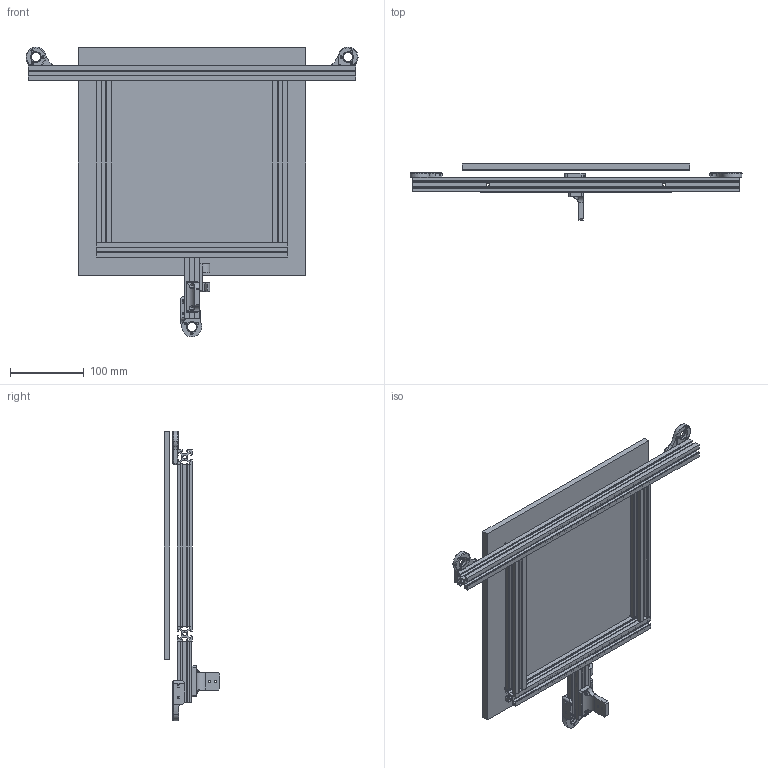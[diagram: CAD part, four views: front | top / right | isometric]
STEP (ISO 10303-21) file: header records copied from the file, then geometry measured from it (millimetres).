
FILE_DESCRIPTION (( 'STEP AP214' ), '1' );
FILE_NAME ('ass_b2v_piano_stampa.STEP', '2024-01-16T13:08:57', ( '' ), ( '' ), 'SwSTEP 2.0', 'SolidWorks 2022', '' );
FILE_SCHEMA (( 'AUTOMOTIVE_DESIGN' ));
Length unit declared in the file: millimetre
Products named in the file (11): b2v_ferma_cavi; b2v_profilo_20x20_260; b2v_attacco_piatto_z_sx; b2v_profilo_20x20_445; b2v_profilo_20x20_220; ass_b2v_piano_stampa; b2v_profilo_20x20_83; b2v_attacco_piatto_z_cx; b2v_fissaggio_catena_piatto; b2v_piatto_310x310_cr10; b2v_attacco_piatto_z_dx
Assembly tree (11 placements, depth 2):
  ass_b2v_piano_stampa
    b2v_profilo_20x20_445
    b2v_profilo_20x20_220  x2
    b2v_profilo_20x20_260
    b2v_profilo_20x20_83
    b2v_piatto_310x310_cr10
    b2v_attacco_piatto_z_sx
    b2v_attacco_piatto_z_dx
    b2v_attacco_piatto_z_cx
    b2v_ferma_cavi
    b2v_fissaggio_catena_piatto
Bounding box: 451.49 x 76 x 393.97 mm (x, y, z)
Volume: 1037278.9 mm3; surface area: 438603 mm2
Topology: 11 solids, 11 shells, 737 faces, 2040 edges, 1330 vertices
Faces by surface type: plane 466, cylinder 194, cone 70, bspline 5, torus 2
Entity records: 22688 total; most frequent: CARTESIAN_POINT 4755, ORIENTED_EDGE 3708, DIRECTION 3579, EDGE_CURVE 1854, LINE 1333, VECTOR 1333, VERTEX_POINT 1206, AXIS2_PLACEMENT_3D 1123
